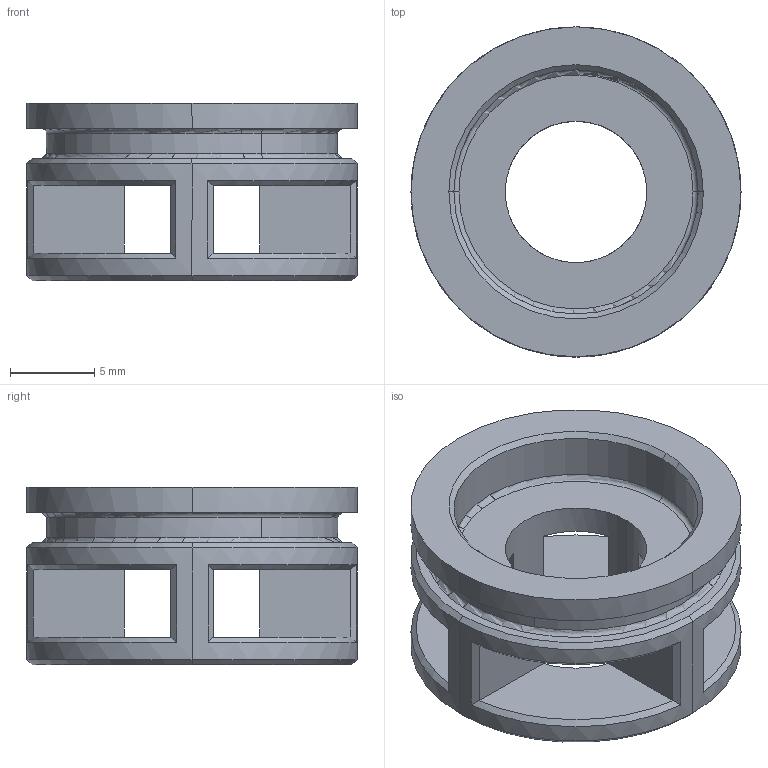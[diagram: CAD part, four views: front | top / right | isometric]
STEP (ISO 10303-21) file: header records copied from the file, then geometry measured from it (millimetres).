
FILE_DESCRIPTION(('CATIA V5 STEP Exchange'),'2;1');
FILE_NAME('F:\b.光华荣昌项目任务\3.0平台--H6\VDC阀\膜片式结构\气囊密封支撑圈.stp','2021-07-05T05:19:33+00:00',('none'),('none'),'CATIA Version 5 Release 20 GA (IN-10)','CATIA V5 STEP AP214','none');
FILE_SCHEMA(('AUTOMOTIVE_DESIGN { 1 0 10303 214 1 1 1 1 }'));
Length unit declared in the file: millimetre
Products named in the file (1): BPC0010079
Bounding box: 19.6 x 19.6 x 10.55 mm (x, y, z)
Volume: 1356.7 mm3; surface area: 1821.4 mm2
Topology: 1 solids, 1 shells, 74 faces, 191 edges, 122 vertices
Faces by surface type: plane 29, cone 19, cylinder 16, torus 10
Entity records: 2321 total; most frequent: CARTESIAN_POINT 598, ORIENTED_EDGE 382, DIRECTION 280, EDGE_CURVE 191, AXIS2_PLACEMENT_3D 148, VERTEX_POINT 122, EDGE_LOOP 87, CIRCLE 83
